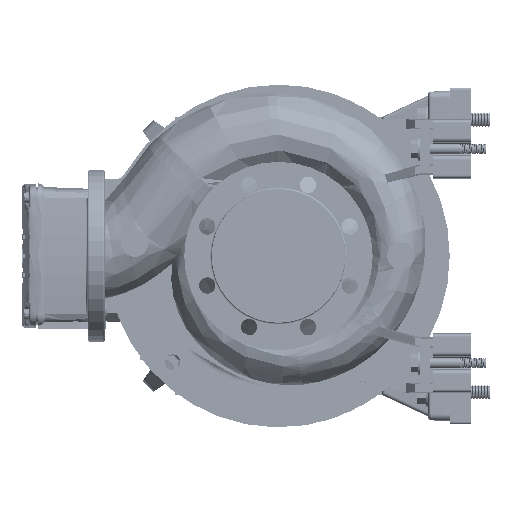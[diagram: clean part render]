
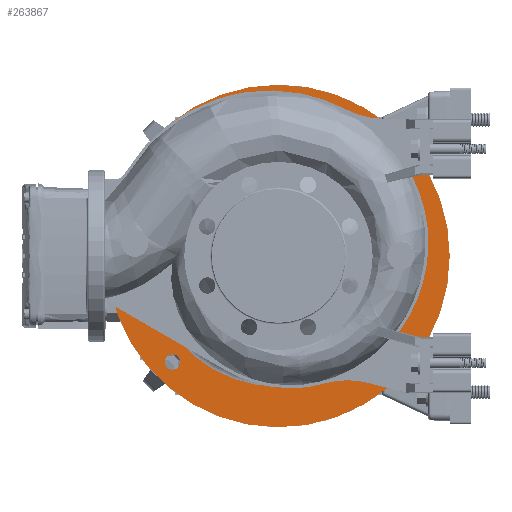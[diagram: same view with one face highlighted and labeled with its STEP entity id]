
A CAD part, left-side view. The second image highlights one B-rep face of the part: STEP entity #263867.
In plain terms, the highlighted planar face has unit normal (-1, 0, 0).
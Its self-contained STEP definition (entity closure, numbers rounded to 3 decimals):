
#1012 = AXIS2_PLACEMENT_3D ( 'NONE', #176404, #239607, #202459 ) ;
#2796 = VERTEX_POINT ( 'NONE', #3317 ) ;
#3317 = CARTESIAN_POINT ( 'NONE',  ( 224., -151.791, 16.44 ) ) ;
#4859 = ORIENTED_EDGE ( 'NONE', *, *, #247444, .T. ) ;
#6418 = CARTESIAN_POINT ( 'NONE',  ( 224., 0.001, 0.002 ) ) ;
#10188 = FACE_BOUND ( 'NONE', #193125, .T. ) ;
#12895 = DIRECTION ( 'NONE',  ( 0., 0., 1. ) ) ;
#19702 = CIRCLE ( 'NONE', #265223, 200. ) ;
#22227 = DIRECTION ( 'NONE',  ( 1., 0., 0. ) ) ;
#22243 = ORIENTED_EDGE ( 'NONE', *, *, #228033, .T. ) ;
#23069 = AXIS2_PLACEMENT_3D ( 'NONE', #96626, #242156, #12895 ) ;
#25614 = EDGE_LOOP ( 'NONE', ( #22243, #238373 ) ) ;
#26085 = VERTEX_POINT ( 'NONE', #240247 ) ;
#26696 = FACE_BOUND ( 'NONE', #202393, .T. ) ;
#28033 = CARTESIAN_POINT ( 'NONE',  ( 224., -123.743, -123.742 ) ) ;
#29509 = CARTESIAN_POINT ( 'NONE',  ( 224., -123.743, 114.745 ) ) ;
#30142 = AXIS2_PLACEMENT_3D ( 'NONE', #210287, #22227, #107315 ) ;
#31927 = CARTESIAN_POINT ( 'NONE',  ( 224., -123.743, -114.742 ) ) ;
#39300 = ORIENTED_EDGE ( 'NONE', *, *, #208308, .T. ) ;
#40467 = CARTESIAN_POINT ( 'NONE',  ( 224., 123.745, 123.745 ) ) ;
#42442 = EDGE_CURVE ( 'NONE', #50508, #128835, #242098, .T. ) ;
#43847 = AXIS2_PLACEMENT_3D ( 'NONE', #188611, #150091, #107591 ) ;
#44383 = DIRECTION ( 'NONE',  ( 0., 0., 1. ) ) ;
#44654 = CARTESIAN_POINT ( 'NONE',  ( 224., -123.743, 123.745 ) ) ;
#44771 = EDGE_CURVE ( 'NONE', #128835, #50508, #193842, .T. ) ;
#47787 = AXIS2_PLACEMENT_3D ( 'NONE', #232478, #86964, #44383 ) ;
#50508 = VERTEX_POINT ( 'NONE', #53003 ) ;
#51327 = DIRECTION ( 'NONE',  ( 1., 0., 0. ) ) ;
#53003 = CARTESIAN_POINT ( 'NONE',  ( 224., 123.745, -114.742 ) ) ;
#58205 = CARTESIAN_POINT ( 'NONE',  ( 224., 0.001, 152.681 ) ) ;
#58758 = CARTESIAN_POINT ( 'NONE',  ( 224., 123.745, -132.742 ) ) ;
#63278 = EDGE_CURVE ( 'NONE', #85643, #134782, #19702, .T. ) ;
#68620 = DIRECTION ( 'NONE',  ( 0., 0., 1. ) ) ;
#69457 = DIRECTION ( 'NONE',  ( 0., 0., -1. ) ) ;
#70120 = EDGE_CURVE ( 'NONE', #26085, #260796, #270670, .T. ) ;
#70568 = EDGE_CURVE ( 'NONE', #247795, #186470, #266547, .T. ) ;
#70605 = DIRECTION ( 'NONE',  ( 0., 0., 1. ) ) ;
#72414 = VERTEX_POINT ( 'NONE', #73842 ) ;
#73842 = CARTESIAN_POINT ( 'NONE',  ( 224., -151.791, -16.437 ) ) ;
#74564 = ORIENTED_EDGE ( 'NONE', *, *, #101933, .T. ) ;
#76057 = FACE_BOUND ( 'NONE', #218470, .T. ) ;
#77832 = DIRECTION ( 'NONE',  ( 0., 0., -1. ) ) ;
#78734 = FACE_BOUND ( 'NONE', #25614, .T. ) ;
#80745 = VERTEX_POINT ( 'NONE', #58205 ) ;
#82145 = ORIENTED_EDGE ( 'NONE', *, *, #238191, .T. ) ;
#85643 = VERTEX_POINT ( 'NONE', #148221 ) ;
#86964 = DIRECTION ( 'NONE',  ( 1., 0., 0. ) ) ;
#90558 = EDGE_CURVE ( 'NONE', #145250, #159340, #145538, .T. ) ;
#94618 = EDGE_CURVE ( 'NONE', #72414, #139968, #147562, .T. ) ;
#96626 = CARTESIAN_POINT ( 'NONE',  ( 224., 200.001, 0.002 ) ) ;
#97054 = CARTESIAN_POINT ( 'NONE',  ( 224., 0.001, 0.002 ) ) ;
#97544 = AXIS2_PLACEMENT_3D ( 'NONE', #212789, #192186, #68620 ) ;
#101933 = EDGE_CURVE ( 'NONE', #260796, #26085, #153365, .T. ) ;
#103314 = CARTESIAN_POINT ( 'NONE',  ( 224., -123.743, 123.745 ) ) ;
#107315 = DIRECTION ( 'NONE',  ( 0., 0., -1. ) ) ;
#107591 = DIRECTION ( 'NONE',  ( 0., 0., 1. ) ) ;
#109278 = CARTESIAN_POINT ( 'NONE',  ( 224., 0.001, 0.002 ) ) ;
#114409 = CIRCLE ( 'NONE', #219646, 9. ) ;
#114813 = DIRECTION ( 'NONE',  ( 1., 0., 0. ) ) ;
#128835 = VERTEX_POINT ( 'NONE', #58758 ) ;
#130150 = ORIENTED_EDGE ( 'NONE', *, *, #70120, .T. ) ;
#131045 = FACE_OUTER_BOUND ( 'NONE', #239810, .T. ) ;
#132405 = AXIS2_PLACEMENT_3D ( 'NONE', #28033, #51327, #70605 ) ;
#133169 = ORIENTED_EDGE ( 'NONE', *, *, #70568, .T. ) ;
#134347 = ORIENTED_EDGE ( 'NONE', *, *, #168439, .T. ) ;
#134381 = DIRECTION ( 'NONE',  ( 1., 0., 0. ) ) ;
#134782 = VERTEX_POINT ( 'NONE', #181735 ) ;
#134949 = CARTESIAN_POINT ( 'NONE',  ( 224., -123.743, 132.745 ) ) ;
#139756 = AXIS2_PLACEMENT_3D ( 'NONE', #97054, #261802, #77832 ) ;
#139968 = VERTEX_POINT ( 'NONE', #225138 ) ;
#140495 = FACE_BOUND ( 'NONE', #235206, .T. ) ;
#145250 = VERTEX_POINT ( 'NONE', #31927 ) ;
#145538 = CIRCLE ( 'NONE', #132405, 9. ) ;
#147562 = CIRCLE ( 'NONE', #178150, 152.679 ) ;
#148221 = CARTESIAN_POINT ( 'NONE',  ( 224., 0.001, 200.002 ) ) ;
#148375 = CIRCLE ( 'NONE', #205229, 200. ) ;
#149089 = DIRECTION ( 'NONE',  ( 0., 0., -1. ) ) ;
#149859 = DIRECTION ( 'NONE',  ( 0., 0., 1. ) ) ;
#149938 = AXIS2_PLACEMENT_3D ( 'NONE', #237397, #134381, #267080 ) ;
#150091 = DIRECTION ( 'NONE',  ( 1., 0., 0. ) ) ;
#152270 = AXIS2_PLACEMENT_3D ( 'NONE', #40467, #170781, #233968 ) ;
#153365 = CIRCLE ( 'NONE', #43847, 9. ) ;
#156423 = ORIENTED_EDGE ( 'NONE', *, *, #44771, .T. ) ;
#159340 = VERTEX_POINT ( 'NONE', #215629 ) ;
#164016 = ORIENTED_EDGE ( 'NONE', *, *, #42442, .T. ) ;
#168439 = EDGE_CURVE ( 'NONE', #186470, #247795, #114409, .T. ) ;
#170781 = DIRECTION ( 'NONE',  ( 1., 0., 0. ) ) ;
#170917 = DIRECTION ( 'NONE',  ( 0., 0., 1. ) ) ;
#176404 = CARTESIAN_POINT ( 'NONE',  ( 224., 123.745, -123.742 ) ) ;
#178150 = AXIS2_PLACEMENT_3D ( 'NONE', #109278, #194363, #69457 ) ;
#181735 = CARTESIAN_POINT ( 'NONE',  ( 224., 0.001, -199.998 ) ) ;
#183102 = AXIS2_PLACEMENT_3D ( 'NONE', #103314, #209005, #149859 ) ;
#186064 = EDGE_CURVE ( 'NONE', #134782, #85643, #148375, .T. ) ;
#186470 = VERTEX_POINT ( 'NONE', #134949 ) ;
#188611 = CARTESIAN_POINT ( 'NONE',  ( 224., 123.745, 123.745 ) ) ;
#191690 = CARTESIAN_POINT ( 'NONE',  ( 224., 0.001, 0.002 ) ) ;
#192186 = DIRECTION ( 'NONE',  ( 1., 0., 0. ) ) ;
#193125 = EDGE_LOOP ( 'NONE', ( #130150, #74564 ) ) ;
#193719 = ORIENTED_EDGE ( 'NONE', *, *, #63278, .F. ) ;
#193842 = CIRCLE ( 'NONE', #1012, 9. ) ;
#194363 = DIRECTION ( 'NONE',  ( 1., 0., 0. ) ) ;
#202393 = EDGE_LOOP ( 'NONE', ( #156423, #164016 ) ) ;
#202459 = DIRECTION ( 'NONE',  ( 0., 0., 1. ) ) ;
#205229 = AXIS2_PLACEMENT_3D ( 'NONE', #191690, #213636, #149089 ) ;
#206347 = PLANE ( 'NONE',  #23069 ) ;
#208308 = EDGE_CURVE ( 'NONE', #80745, #2796, #266893, .T. ) ;
#209005 = DIRECTION ( 'NONE',  ( 1., 0., 0. ) ) ;
#209912 = CIRCLE ( 'NONE', #139756, 152.679 ) ;
#210287 = CARTESIAN_POINT ( 'NONE',  ( 224., 0.001, 0.002 ) ) ;
#212789 = CARTESIAN_POINT ( 'NONE',  ( 224., -134.997, 0.002 ) ) ;
#213636 = DIRECTION ( 'NONE',  ( 1., 0., 0. ) ) ;
#215629 = CARTESIAN_POINT ( 'NONE',  ( 224., -123.743, -132.742 ) ) ;
#216922 = ORIENTED_EDGE ( 'NONE', *, *, #94618, .T. ) ;
#218470 = EDGE_LOOP ( 'NONE', ( #216922, #4859, #39300, #82145 ) ) ;
#219646 = AXIS2_PLACEMENT_3D ( 'NONE', #44654, #271195, #170917 ) ;
#220515 = DIRECTION ( 'NONE',  ( 0., 0., -1. ) ) ;
#225138 = CARTESIAN_POINT ( 'NONE',  ( 224., 0.001, -152.678 ) ) ;
#228033 = EDGE_CURVE ( 'NONE', #159340, #145250, #258053, .T. ) ;
#229051 = CIRCLE ( 'NONE', #97544, 23.5 ) ;
#231087 = CARTESIAN_POINT ( 'NONE',  ( 224., 123.745, 132.745 ) ) ;
#232478 = CARTESIAN_POINT ( 'NONE',  ( 224., -123.743, -123.742 ) ) ;
#233968 = DIRECTION ( 'NONE',  ( 0., 0., 1. ) ) ;
#235206 = EDGE_LOOP ( 'NONE', ( #133169, #134347 ) ) ;
#237397 = CARTESIAN_POINT ( 'NONE',  ( 224., 123.745, -123.742 ) ) ;
#238191 = EDGE_CURVE ( 'NONE', #2796, #72414, #229051, .T. ) ;
#238373 = ORIENTED_EDGE ( 'NONE', *, *, #90558, .T. ) ;
#239607 = DIRECTION ( 'NONE',  ( 1., 0., 0. ) ) ;
#239810 = EDGE_LOOP ( 'NONE', ( #248326, #193719 ) ) ;
#240247 = CARTESIAN_POINT ( 'NONE',  ( 224., 123.745, 114.745 ) ) ;
#242098 = CIRCLE ( 'NONE', #149938, 9. ) ;
#242156 = DIRECTION ( 'NONE',  ( -1., 0., 0. ) ) ;
#247444 = EDGE_CURVE ( 'NONE', #139968, #80745, #209912, .T. ) ;
#247795 = VERTEX_POINT ( 'NONE', #29509 ) ;
#248326 = ORIENTED_EDGE ( 'NONE', *, *, #186064, .F. ) ;
#258053 = CIRCLE ( 'NONE', #47787, 9. ) ;
#260796 = VERTEX_POINT ( 'NONE', #231087 ) ;
#261802 = DIRECTION ( 'NONE',  ( 1., 0., 0. ) ) ;
#263867 = ADVANCED_FACE ( 'NONE', ( #131045, #26696, #10188, #140495, #78734, #76057 ), #206347, .T. ) ;
#265223 = AXIS2_PLACEMENT_3D ( 'NONE', #6418, #114813, #220515 ) ;
#266547 = CIRCLE ( 'NONE', #183102, 9. ) ;
#266893 = CIRCLE ( 'NONE', #30142, 152.679 ) ;
#267080 = DIRECTION ( 'NONE',  ( 0., 0., 1. ) ) ;
#270670 = CIRCLE ( 'NONE', #152270, 9. ) ;
#271195 = DIRECTION ( 'NONE',  ( 1., 0., 0. ) ) ;
